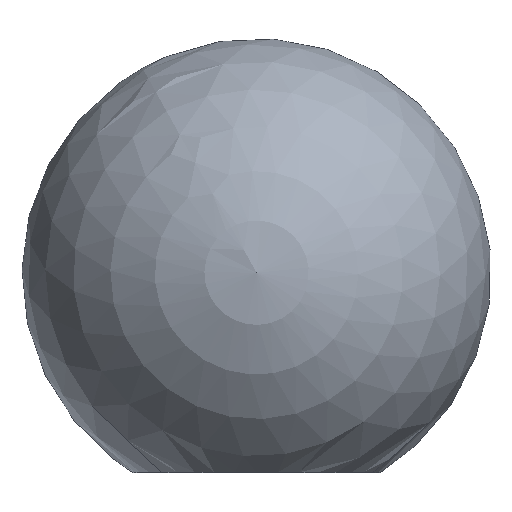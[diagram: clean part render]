
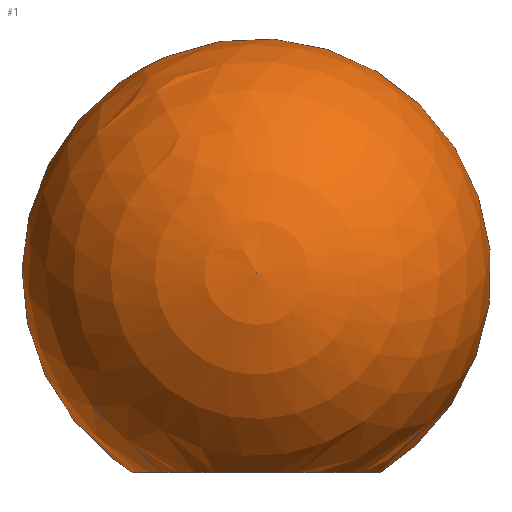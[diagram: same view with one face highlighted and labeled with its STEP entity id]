
A CAD part, top view. The second image highlights one B-rep face of the part: STEP entity #1.
In plain terms, the highlighted spherical face has radius 20 mm.
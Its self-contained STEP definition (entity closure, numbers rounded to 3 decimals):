
#1 = ADVANCED_FACE ( 'NONE', ( #112 ), #94, .T. ) ;
#11 = VERTEX_POINT ( 'NONE', #12 ) ;
#12 = CARTESIAN_POINT ( 'NONE',  ( 0., 0., -10.536 ) ) ;
#19 = DIRECTION ( 'NONE',  ( 0., 0., -1. ) ) ;
#23 = EDGE_LOOP ( 'NONE', ( #42 ) ) ;
#38 = DIRECTION ( 'NONE',  ( 0., 0., 1. ) ) ;
#42 = ORIENTED_EDGE ( 'NONE', *, *, #123, .F. ) ;
#70 = AXIS2_PLACEMENT_3D ( 'NONE', #165, #38, #125 ) ;
#80 = DIRECTION ( 'NONE',  ( 0., -1., 0. ) ) ;
#89 = CIRCLE ( 'NONE', #109, 10.536 ) ;
#94 = SPHERICAL_SURFACE ( 'NONE', #70, 20. ) ;
#109 = AXIS2_PLACEMENT_3D ( 'NONE', #127, #80, #19 ) ;
#112 = FACE_OUTER_BOUND ( 'NONE', #23, .T. ) ;
#123 = EDGE_CURVE ( 'NONE', #11, #11, #89, .T. ) ;
#125 = DIRECTION ( 'NONE',  ( 1., 0., 0. ) ) ;
#127 = CARTESIAN_POINT ( 'NONE',  ( 0., 0., 0. ) ) ;
#165 = CARTESIAN_POINT ( 'NONE',  ( 0., 17., 0. ) ) ;
